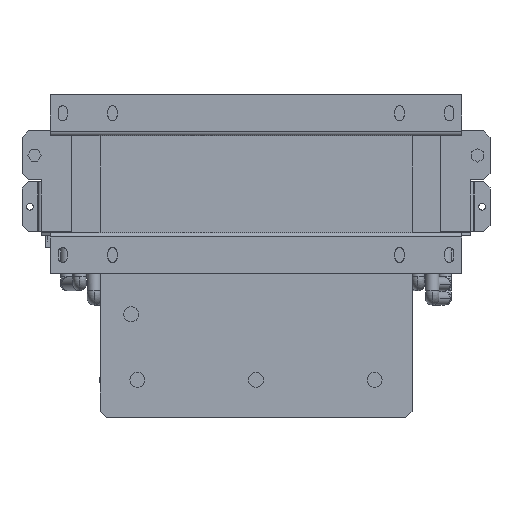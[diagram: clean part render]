
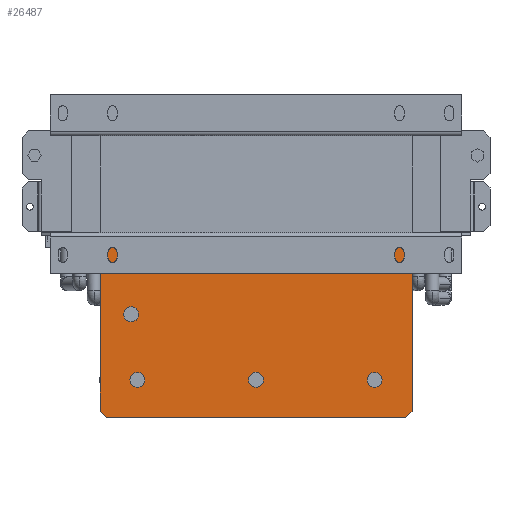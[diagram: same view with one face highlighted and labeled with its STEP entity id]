
A CAD part, front view. The second image highlights one B-rep face of the part: STEP entity #26487.
In plain terms, the highlighted planar face has unit normal (0, -1, 0).
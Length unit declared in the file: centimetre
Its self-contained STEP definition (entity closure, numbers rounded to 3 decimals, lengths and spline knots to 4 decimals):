
#62 = VERTEX_POINT ( 'NONE', #20121 ) ;
#1751 = FACE_BOUND ( 'NONE', #7088, .T. ) ;
#1780 = DIRECTION ( 'NONE',  ( 0., -1., 0. ) ) ;
#1788 = LINE ( 'NONE', #28643, #24436 ) ;
#2215 = AXIS2_PLACEMENT_3D ( 'NONE', #38813, #22867, #30210 ) ;
#2499 = VECTOR ( 'NONE', #28268, 100. ) ;
#3916 = VERTEX_POINT ( 'NONE', #15932 ) ;
#3991 = CARTESIAN_POINT ( 'NONE',  ( 19., 8.1, -31.365 ) ) ;
#4081 = VERTEX_POINT ( 'NONE', #29593 ) ;
#4673 = ORIENTED_EDGE ( 'NONE', *, *, #39414, .T. ) ;
#4944 = CARTESIAN_POINT ( 'NONE',  ( -19., 8.1, -30.165 ) ) ;
#5326 = DIRECTION ( 'NONE',  ( 0., 0., -1. ) ) ;
#5367 = DIRECTION ( 'NONE',  ( 0., -1., 0. ) ) ;
#5468 = LINE ( 'NONE', #14086, #33073 ) ;
#6060 = FACE_BOUND ( 'NONE', #35621, .T. ) ;
#6263 = VECTOR ( 'NONE', #11385, 100. ) ;
#6474 = DIRECTION ( 'NONE',  ( 0., 0., 1. ) ) ;
#7088 = EDGE_LOOP ( 'NONE', ( #46396, #28747 ) ) ;
#7111 = CIRCLE ( 'NONE', #2215, 1.2 ) ;
#7550 = CARTESIAN_POINT ( 'NONE',  ( 0., 8.1, -31.365 ) ) ;
#7933 = VERTEX_POINT ( 'NONE', #45049 ) ;
#8495 = CARTESIAN_POINT ( 'NONE',  ( 0., 8.1, -30.165 ) ) ;
#8589 = DIRECTION ( 'NONE',  ( 0., 0., 1. ) ) ;
#8751 = CARTESIAN_POINT ( 'NONE',  ( 25., 8.1, -36.365 ) ) ;
#9390 = CARTESIAN_POINT ( 'NONE',  ( -25., 8.1, -9.165 ) ) ;
#10090 = DIRECTION ( 'NONE',  ( 0., -1., 0. ) ) ;
#10716 = LINE ( 'NONE', #33744, #18661 ) ;
#10867 = CARTESIAN_POINT ( 'NONE',  ( 25., 8.1, -37.365 ) ) ;
#11260 = VERTEX_POINT ( 'NONE', #9390 ) ;
#11385 = DIRECTION ( 'NONE',  ( 0., 0., -1. ) ) ;
#11708 = ORIENTED_EDGE ( 'NONE', *, *, #16592, .F. ) ;
#12183 = AXIS2_PLACEMENT_3D ( 'NONE', #44405, #5367, #41093 ) ;
#12335 = CARTESIAN_POINT ( 'NONE',  ( -20., 8.1, -19.665 ) ) ;
#12969 = AXIS2_PLACEMENT_3D ( 'NONE', #28114, #1780, #5326 ) ;
#14086 = CARTESIAN_POINT ( 'NONE',  ( -25., 8.1, -37.365 ) ) ;
#14580 = ORIENTED_EDGE ( 'NONE', *, *, #38172, .F. ) ;
#15493 = AXIS2_PLACEMENT_3D ( 'NONE', #48136, #10090, #44594 ) ;
#15932 = CARTESIAN_POINT ( 'NONE',  ( 25., 8.1, -36.365 ) ) ;
#15959 = CIRCLE ( 'NONE', #19962, 1.2 ) ;
#16592 = EDGE_CURVE ( 'NONE', #11260, #7933, #10716, .T. ) ;
#17652 = VECTOR ( 'NONE', #49229, 100. ) ;
#18259 = AXIS2_PLACEMENT_3D ( 'NONE', #7550, #42008, #27050 ) ;
#18536 = EDGE_LOOP ( 'NONE', ( #22607, #4673, #30776, #40840, #37711, #11708 ) ) ;
#18661 = VECTOR ( 'NONE', #21874, 100. ) ;
#19962 = AXIS2_PLACEMENT_3D ( 'NONE', #3991, #31101, #34636 ) ;
#20121 = CARTESIAN_POINT ( 'NONE',  ( 19., 8.1, -30.165 ) ) ;
#20138 = EDGE_CURVE ( 'NONE', #46558, #41626, #7111, .T. ) ;
#21333 = EDGE_CURVE ( 'NONE', #42623, #11260, #5468, .T. ) ;
#21791 = VERTEX_POINT ( 'NONE', #35422 ) ;
#21874 = DIRECTION ( 'NONE',  ( 1., 0., 0. ) ) ;
#21925 = DIRECTION ( 'NONE',  ( 0., -1., 0. ) ) ;
#22607 = ORIENTED_EDGE ( 'NONE', *, *, #21333, .F. ) ;
#22867 = DIRECTION ( 'NONE',  ( 0., -1., 0. ) ) ;
#23054 = EDGE_CURVE ( 'NONE', #33388, #30927, #34017, .T. ) ;
#23256 = LINE ( 'NONE', #10867, #6263 ) ;
#23979 = CARTESIAN_POINT ( 'NONE',  ( -25., 8.1, -36.365 ) ) ;
#24436 = VECTOR ( 'NONE', #25087, 100. ) ;
#25087 = DIRECTION ( 'NONE',  ( 0.707, 0., -0.707 ) ) ;
#25463 = CARTESIAN_POINT ( 'NONE',  ( 19., 8.1, -31.365 ) ) ;
#25599 = ORIENTED_EDGE ( 'NONE', *, *, #23054, .F. ) ;
#26357 = CIRCLE ( 'NONE', #18259, 1.2 ) ;
#26487 = ADVANCED_FACE ( 'NONE', ( #6060, #1751, #36705, #40781, #48375 ), #48657, .T. ) ;
#27050 = DIRECTION ( 'NONE',  ( 0., 0., 1. ) ) ;
#27422 = AXIS2_PLACEMENT_3D ( 'NONE', #25463, #21925, #6474 ) ;
#27854 = DIRECTION ( 'NONE',  ( 0., -1., 0. ) ) ;
#28114 = CARTESIAN_POINT ( 'NONE',  ( -20., 8.1, -20.865 ) ) ;
#28268 = DIRECTION ( 'NONE',  ( 0.707, 0., 0.707 ) ) ;
#28614 = CARTESIAN_POINT ( 'NONE',  ( 0., 8.1, -31.365 ) ) ;
#28643 = CARTESIAN_POINT ( 'NONE',  ( -24., 8.1, -37.365 ) ) ;
#28747 = ORIENTED_EDGE ( 'NONE', *, *, #42315, .F. ) ;
#29255 = EDGE_CURVE ( 'NONE', #7933, #3916, #23256, .T. ) ;
#29326 = VERTEX_POINT ( 'NONE', #44062 ) ;
#29465 = EDGE_CURVE ( 'NONE', #41626, #46558, #29716, .T. ) ;
#29523 = DIRECTION ( 'NONE',  ( 0., 0., 1. ) ) ;
#29593 = CARTESIAN_POINT ( 'NONE',  ( 19., 8.1, -32.565 ) ) ;
#29716 = CIRCLE ( 'NONE', #49182, 1.2 ) ;
#30210 = DIRECTION ( 'NONE',  ( 0., 0., 1. ) ) ;
#30776 = ORIENTED_EDGE ( 'NONE', *, *, #35845, .F. ) ;
#30927 = VERTEX_POINT ( 'NONE', #12335 ) ;
#31101 = DIRECTION ( 'NONE',  ( 0., -1., 0. ) ) ;
#31191 = ORIENTED_EDGE ( 'NONE', *, *, #29465, .F. ) ;
#31462 = CIRCLE ( 'NONE', #27422, 1.2 ) ;
#31829 = AXIS2_PLACEMENT_3D ( 'NONE', #28614, #27854, #8589 ) ;
#32633 = CIRCLE ( 'NONE', #31829, 1.2 ) ;
#33073 = VECTOR ( 'NONE', #29523, 100. ) ;
#33113 = DIRECTION ( 'NONE',  ( 0., 0., 1. ) ) ;
#33388 = VERTEX_POINT ( 'NONE', #44860 ) ;
#33744 = CARTESIAN_POINT ( 'NONE',  ( -25., 8.1, -9.165 ) ) ;
#34017 = CIRCLE ( 'NONE', #12183, 1.2 ) ;
#34536 = ORIENTED_EDGE ( 'NONE', *, *, #36573, .F. ) ;
#34636 = DIRECTION ( 'NONE',  ( 0., 0., 1. ) ) ;
#34665 = CARTESIAN_POINT ( 'NONE',  ( -25., 8.1, -37.365 ) ) ;
#34803 = CIRCLE ( 'NONE', #12969, 1.2 ) ;
#35422 = CARTESIAN_POINT ( 'NONE',  ( 0., 8.1, -32.565 ) ) ;
#35621 = EDGE_LOOP ( 'NONE', ( #25599, #14580 ) ) ;
#35845 = EDGE_CURVE ( 'NONE', #46658, #29326, #45169, .T. ) ;
#36255 = EDGE_LOOP ( 'NONE', ( #40740, #31191 ) ) ;
#36573 = EDGE_CURVE ( 'NONE', #62, #4081, #31462, .T. ) ;
#36705 = FACE_BOUND ( 'NONE', #36255, .T. ) ;
#37341 = CARTESIAN_POINT ( 'NONE',  ( -19., 8.1, -32.565 ) ) ;
#37711 = ORIENTED_EDGE ( 'NONE', *, *, #29255, .F. ) ;
#38172 = EDGE_CURVE ( 'NONE', #30927, #33388, #34803, .T. ) ;
#38813 = CARTESIAN_POINT ( 'NONE',  ( -19., 8.1, -31.365 ) ) ;
#39414 = EDGE_CURVE ( 'NONE', #42623, #29326, #1788, .T. ) ;
#40178 = EDGE_CURVE ( 'NONE', #46658, #3916, #47301, .T. ) ;
#40740 = ORIENTED_EDGE ( 'NONE', *, *, #20138, .F. ) ;
#40781 = FACE_BOUND ( 'NONE', #45913, .T. ) ;
#40840 = ORIENTED_EDGE ( 'NONE', *, *, #40178, .T. ) ;
#41093 = DIRECTION ( 'NONE',  ( 0., 0., -1. ) ) ;
#41626 = VERTEX_POINT ( 'NONE', #37341 ) ;
#41652 = CARTESIAN_POINT ( 'NONE',  ( 24., 8.1, -37.365 ) ) ;
#42008 = DIRECTION ( 'NONE',  ( 0., -1., 0. ) ) ;
#42315 = EDGE_CURVE ( 'NONE', #21791, #48906, #32633, .T. ) ;
#42623 = VERTEX_POINT ( 'NONE', #23979 ) ;
#44062 = CARTESIAN_POINT ( 'NONE',  ( -24., 8.1, -37.365 ) ) ;
#44295 = DIRECTION ( 'NONE',  ( 0., -1., 0. ) ) ;
#44405 = CARTESIAN_POINT ( 'NONE',  ( -20., 8.1, -20.865 ) ) ;
#44594 = DIRECTION ( 'NONE',  ( 0., 0., -1. ) ) ;
#44665 = EDGE_CURVE ( 'NONE', #48906, #21791, #26357, .T. ) ;
#44860 = CARTESIAN_POINT ( 'NONE',  ( -20., 8.1, -22.065 ) ) ;
#45049 = CARTESIAN_POINT ( 'NONE',  ( 25., 8.1, -9.165 ) ) ;
#45169 = LINE ( 'NONE', #34665, #17652 ) ;
#45864 = ORIENTED_EDGE ( 'NONE', *, *, #46013, .F. ) ;
#45913 = EDGE_LOOP ( 'NONE', ( #34536, #45864 ) ) ;
#46013 = EDGE_CURVE ( 'NONE', #4081, #62, #15959, .T. ) ;
#46396 = ORIENTED_EDGE ( 'NONE', *, *, #44665, .F. ) ;
#46558 = VERTEX_POINT ( 'NONE', #4944 ) ;
#46658 = VERTEX_POINT ( 'NONE', #41652 ) ;
#47301 = LINE ( 'NONE', #8751, #2499 ) ;
#48111 = CARTESIAN_POINT ( 'NONE',  ( -19., 8.1, -31.365 ) ) ;
#48136 = CARTESIAN_POINT ( 'NONE',  ( 0., 8.1, 0. ) ) ;
#48375 = FACE_OUTER_BOUND ( 'NONE', #18536, .T. ) ;
#48657 = PLANE ( 'NONE',  #15493 ) ;
#48906 = VERTEX_POINT ( 'NONE', #8495 ) ;
#49182 = AXIS2_PLACEMENT_3D ( 'NONE', #48111, #44295, #33113 ) ;
#49229 = DIRECTION ( 'NONE',  ( -1., 0., 0. ) ) ;
